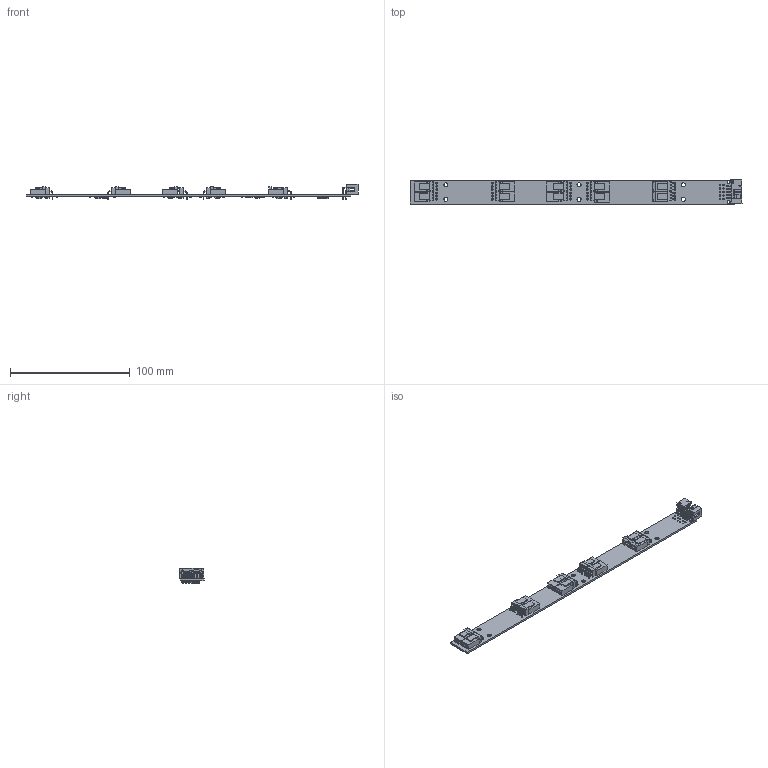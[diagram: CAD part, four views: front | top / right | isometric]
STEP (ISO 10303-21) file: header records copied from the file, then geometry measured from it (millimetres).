
FILE_DESCRIPTION(('Open CASCADE Model'),'2;1');
FILE_NAME('Open CASCADE Shape Model','2025-11-07T08:03:35',('Author'),( 'Open CASCADE'),'Open CASCADE STEP processor 7.5','Open CASCADE 7.5' ,'Unknown');
FILE_SCHEMA(('AUTOMOTIVE_DESIGN { 1 0 10303 214 1 1 1 1 }'));
Length unit declared in the file: millimetre
Products named in the file (131): PCB; Board; Open CASCADE STEP translator 7.5 1.1.1; R23_5; RESC1005X40N; R23_4; R23_3; R23_2; R23_1; R22_5; R22_4; R22_3; R22_2; R22_1; R21_5; R21_4; R21_3; R21_2; R21_1; R13; R10; IC3_5; SOP63P600X175-16N; Open CASCADE STEP translator 7.5 1.19.1.1; Open CASCADE STEP translator 7.5 1.19.1.2; J12; MOLEX_22-05-7038; T2_2; SOT95P230X110-3N; IC3_2; C7_5; CAPC1608X87N; IC3_4; J8; IC1; QFN50P400X400X100-25N-S220; IC2; SOT230P700X180-4N; C16; CAPC1005X55N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
Assembly tree (237 placements, depth 4):
  PCB
    Board
      Open CASCADE STEP translator 7.5 1.1.1
    R23_5
      RESC1005X40N
    R23_4
      RESC1005X40N
    R23_3
      RESC1005X40N
    R23_2
      RESC1005X40N
    R23_1
      RESC1005X40N
    R22_5
      RESC1005X40N
    R22_4
      RESC1005X40N
    R22_3
      RESC1005X40N
    R22_2
      RESC1005X40N
    R22_1
      RESC1005X40N
    R21_5
      RESC1005X40N
    R21_4
      RESC1005X40N
    R21_3
      RESC1005X40N
    R21_2
      RESC1005X40N
    R21_1
      RESC1005X40N
    R13
      RESC1005X40N
    R10
      RESC1005X40N
    IC3_5
      SOP63P600X175-16N
        Open CASCADE STEP translator 7.5 1.19.1.1
        Open CASCADE STEP translator 7.5 1.19.1.2
    J12
      MOLEX_22-05-7038
    T2_2
      SOT95P230X110-3N
    IC3_2
      SOP63P600X175-16N
        Open CASCADE STEP translator 7.5 1.19.1.1
        Open CASCADE STEP translator 7.5 1.19.1.2
    C7_5
      CAPC1608X87N
    IC3_4
      SOP63P600X175-16N
        Open CASCADE STEP translator 7.5 1.19.1.1
        Open CASCADE STEP translator 7.5 1.19.1.2
    J8
      MOLEX_22-05-7038
    IC1
      QFN50P400X400X100-25N-S220
    IC2
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Bounding box: 276.97 x 20.13 x 12.62 mm (x, y, z)
Volume: 14790.4 mm3; surface area: 27258.9 mm2
Topology: 528 solids, 528 shells, 6878 faces, 16733 edges, 10839 vertices
Faces by surface type: plane 4208, cylinder 1560, bspline 902, sphere 208
Full cylindrical faces by diameter (mm): 1 x10, 1.066 x10, 1.2 x30, 2.412 x2, 3.4 x6
Entity records: 47223 total; most frequent: CARTESIAN_POINT 10255, ORIENTED_EDGE 7022, DIRECTION 6697, EDGE_CURVE 3511, LINE 2555, VECTOR 2555, VERTEX_POINT 2291, AXIS2_PLACEMENT_3D 2071
